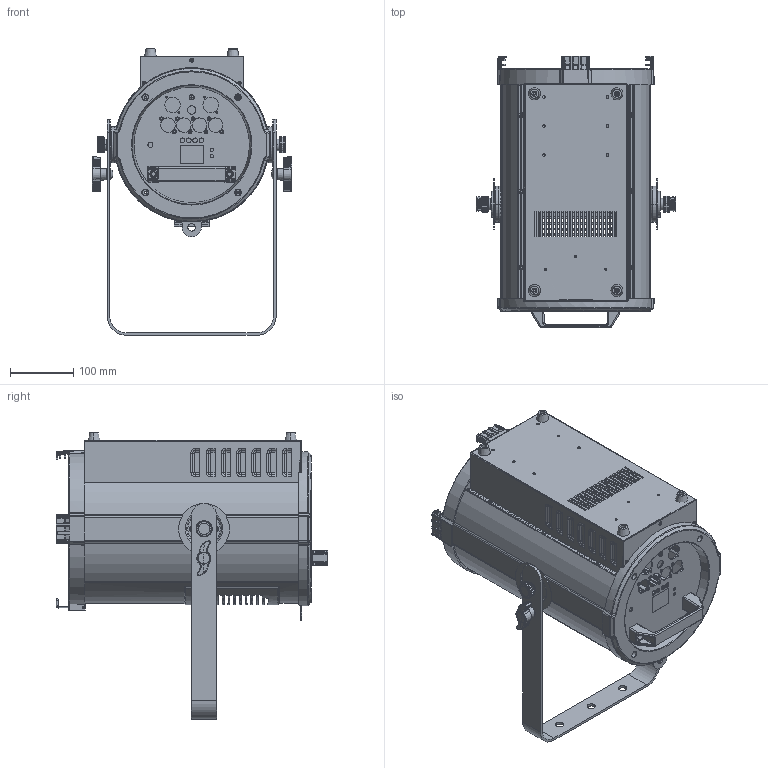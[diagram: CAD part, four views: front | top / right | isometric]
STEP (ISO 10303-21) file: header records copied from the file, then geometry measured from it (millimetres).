
FILE_DESCRIPTION((''),'2;1');
FILE_NAME('600W0001_ASM','2026-05-29T13:54:18',('ALY'),(''),'CREO PARAMETRIC BY PTC INC, 2022164','CREO PARAMETRIC BY PTC INC, 2022164','');
FILE_SCHEMA(('AUTOMOTIVE_DESIGN { 1 0 10303 214 1 1 1 1 }'));
Length unit declared in the file: millimetre
Products named in the file (30): LWGD_A_S_Y; SRQ_A_S_Y_ASM; 111KK_S_Y; WE-QW_A_S_Y; 000; 00; DJ-SL_A_S_Y; DYH-J__A_S_Y_ASM; HG-21_S_Y; 900001; 300W0001; M4X8-0001; 0004; HK-HG_A_S_Y_ASM; XY-80_S_Y; TSGD_S_Y; CJ-29_S_Y; TS-334_S_Y; LS-F_S_Y; TK-SL2___Y; 3344___Y; GDJ-3___Y; YKL-400_Y; TB-4___Y_ASM; FJW-D; FJ-120_ASM; XN-88; NY-S; 600W0001_ASM
Assembly tree (38 placements, depth 3):
  600W0001_ASM
    LWGD_A_S_Y
    SRQ_A_S_Y_ASM
    111KK_S_Y
    WE-QW_A_S_Y
    000
    DYH-J__A_S_Y_ASM
      00
      DJ-SL_A_S_Y  x4
    HK-HG_A_S_Y_ASM
      000
      HG-21_S_Y
      900001
      300W0001
      M4X8-0001
      0004
    XY-80_S_Y  x2
    TSGD_S_Y  x2
    CJ-29_S_Y  x2
    TS-334_S_Y
    LS-F_S_Y  x2
    TB-4___Y_ASM
      TK-SL2___Y
      3344___Y
      GDJ-3___Y
      YKL-400_Y
    FJ-120_ASM
      FJW-D
    XN-88  x2
    NY-S  x2
Bounding box: 314.82 x 428 x 451.5 mm (x, y, z)
Volume: 1448309.7 mm3; surface area: 1321335.3 mm2
Topology: 33 solids, 35 shells, 4500 faces, 11065 edges, 6674 vertices
Faces by surface type: cylinder 1435, bspline 1156, plane 1090, torus 484, cone 251, sphere 84
Entity records: 177314 total; most frequent: CARTESIAN_POINT 63282, ORIENTED_EDGE 18474, DIRECTION 16847, EDGE_CURVE 9237, PRESENTATION_STYLE_ASSIGNMENT 8901, STYLED_ITEM 8901, CURVE_STYLE 8759, AXIS2_PLACEMENT_3D 6506
